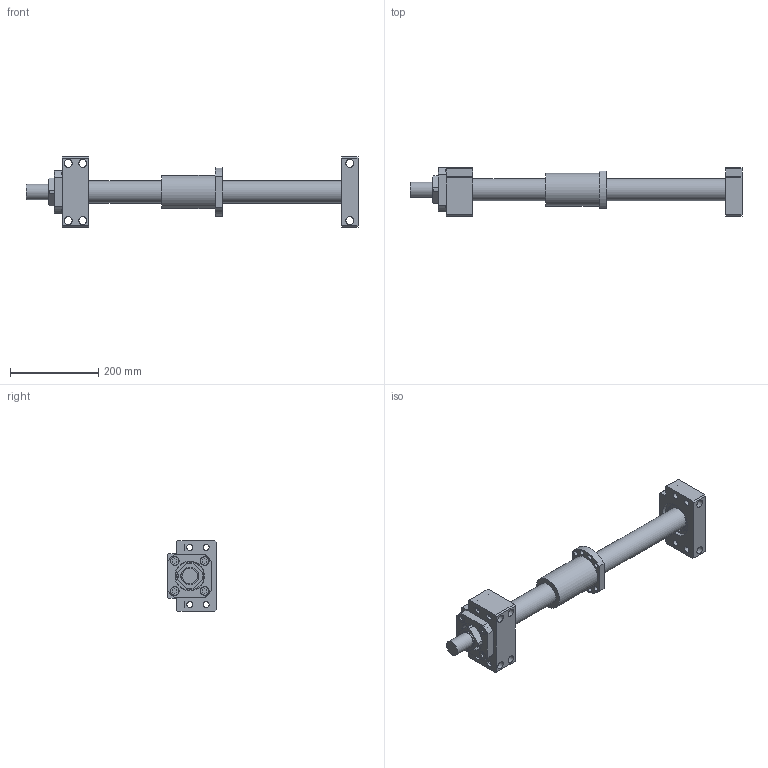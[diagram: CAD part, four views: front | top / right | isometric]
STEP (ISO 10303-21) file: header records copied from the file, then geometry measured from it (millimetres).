
FILE_DESCRIPTION(/* description */ ('','CAx-IF Rec.Pracs.---Representation and Presentation of Product Manufacturing Information (PMI)---4.0---2014-10-13'),/* implementation_level */ '2;1');
FILE_NAME(/* name */ 'F2RFU-5020-0750-BF40-BK40ASM v1.step',/* time_stamp */ '2024-12-17T10:44:54-05:00',/* author */ (''),/* organization */ (''),/* preprocessor_version */ 'ST-DEVELOPER v20',/* originating_system */ 'Autodesk Translation Framework v13.20.0.188',/* authorisation */ '');
FILE_SCHEMA (('AP242_MANAGED_MODEL_BASED_3D_ENGINEERING_MIM_LF { 1 0 10303 442 1 1 4 }'));
Length unit declared in the file: millimetre
Products named in the file (12): F2RFU-5020-0750-BF40-BK40ASM; 50xx_750; Screw50; BF40EndMach; BK40EndMach; BK40Yes; BK 40; BK 40collar; BF40; BF 40 Part1; BF 40 Part2; Ballnut
Assembly tree (11 placements, depth 3):
  F2RFU-5020-0750-BF40-BK40ASM
    50xx_750
      Screw50
      BF40EndMach
      BK40EndMach
    BK40Yes
      BK 40
      BK 40collar
    BF40
      BF 40 Part1
      BF 40 Part2
    Ballnut
Bounding box: 754.5 x 110 x 160 mm (x, y, z)
Volume: 3087758.7 mm3; surface area: 416735.3 mm2
Topology: 8 solids, 9 shells, 244 faces, 634 edges, 429 vertices
Faces by surface type: plane 133, cylinder 87, cone 19, torus 5
Full cylindrical faces by diameter (mm): 8 x2, 11 x8, 14 x20, 18 x6, 19 x4, 20 x4, 26 x6, 35 x1, 38 x1, 38.376 x1, 39.85 x1, 40 x5, 46 x1, 48 x1, 49.4 x2, 50 x2, 52.8 x2, 61.7 x2, 65 x2, 65.1 x1, 67.2 x2, 75 x1, 80 x2
Entity records: 8954 total; most frequent: CARTESIAN_POINT 2477, ORIENTED_EDGE 1268, DIRECTION 1262, EDGE_CURVE 634, AXIS2_PLACEMENT_3D 467, VERTEX_POINT 429, EDGE_LOOP 343, LINE 328
